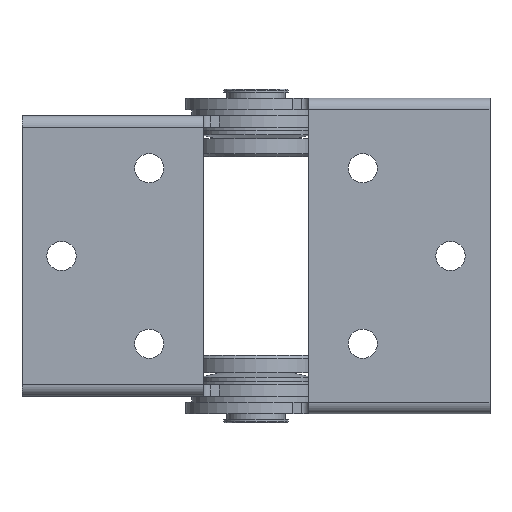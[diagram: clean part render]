
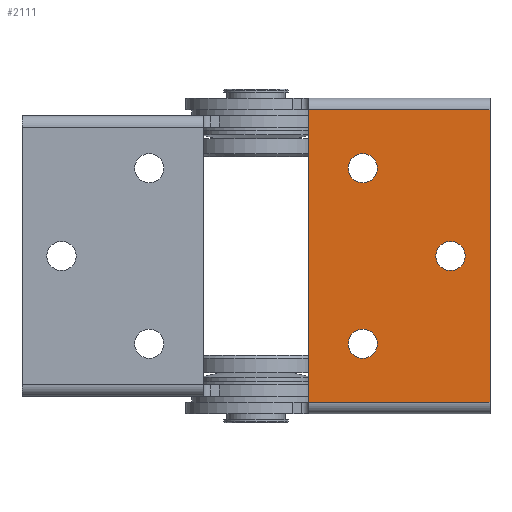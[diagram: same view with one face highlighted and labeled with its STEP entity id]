
A CAD part, front view. The second image highlights one B-rep face of the part: STEP entity #2111.
In plain terms, the highlighted planar face has unit normal (0, -1, 0).
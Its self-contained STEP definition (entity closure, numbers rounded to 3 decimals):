
#27 = DIRECTION ( 'NONE',  ( 0., 1., 0. ) ) ;
#148 = EDGE_LOOP ( 'NONE', ( #3689, #3714 ) ) ;
#227 = ORIENTED_EDGE ( 'NONE', *, *, #3072, .F. ) ;
#244 = CARTESIAN_POINT ( 'NONE',  ( 25.609, 0., -25. ) ) ;
#254 = FACE_BOUND ( 'NONE', #148, .T. ) ;
#274 = CARTESIAN_POINT ( 'NONE',  ( 56.609, 0., 25. ) ) ;
#282 = AXIS2_PLACEMENT_3D ( 'NONE', #1263, #2011, #1985 ) ;
#369 = EDGE_CURVE ( 'NONE', #3373, #3875, #4259, .T. ) ;
#442 = AXIS2_PLACEMENT_3D ( 'NONE', #1675, #3075, #3358 ) ;
#485 = CIRCLE ( 'NONE', #1847, 2.5 ) ;
#508 = DIRECTION ( 'NONE',  ( 0., 0., 1. ) ) ;
#523 = LINE ( 'NONE', #899, #4317 ) ;
#571 = CARTESIAN_POINT ( 'NONE',  ( 49.859, 0., 0. ) ) ;
#638 = FACE_BOUND ( 'NONE', #1841, .T. ) ;
#656 = VECTOR ( 'NONE', #1042, 1000. ) ;
#716 = ORIENTED_EDGE ( 'NONE', *, *, #3692, .T. ) ;
#755 = EDGE_CURVE ( 'NONE', #4239, #913, #3862, .T. ) ;
#899 = CARTESIAN_POINT ( 'NONE',  ( 25.609, 0., -25. ) ) ;
#913 = VERTEX_POINT ( 'NONE', #982 ) ;
#982 = CARTESIAN_POINT ( 'NONE',  ( 49.859, 0., -2.5 ) ) ;
#1042 = DIRECTION ( 'NONE',  ( 0., 0., -1. ) ) ;
#1138 = ORIENTED_EDGE ( 'NONE', *, *, #2246, .T. ) ;
#1214 = EDGE_CURVE ( 'NONE', #2987, #2875, #1498, .T. ) ;
#1218 = DIRECTION ( 'NONE',  ( 0., 0., 1. ) ) ;
#1219 = DIRECTION ( 'NONE',  ( 0., 1., 0. ) ) ;
#1236 = LINE ( 'NONE', #2648, #3732 ) ;
#1263 = CARTESIAN_POINT ( 'NONE',  ( 34.859, 0., -15. ) ) ;
#1354 = CARTESIAN_POINT ( 'NONE',  ( 34.859, 0., -12.5 ) ) ;
#1498 = CIRCLE ( 'NONE', #282, 2.5 ) ;
#1525 = ORIENTED_EDGE ( 'NONE', *, *, #3123, .T. ) ;
#1531 = DIRECTION ( 'NONE',  ( 0., 0., 1. ) ) ;
#1662 = ORIENTED_EDGE ( 'NONE', *, *, #2055, .T. ) ;
#1675 = CARTESIAN_POINT ( 'NONE',  ( 34.859, 0., -15. ) ) ;
#1841 = EDGE_LOOP ( 'NONE', ( #2072, #3035 ) ) ;
#1847 = AXIS2_PLACEMENT_3D ( 'NONE', #571, #3385, #2289 ) ;
#1850 = CARTESIAN_POINT ( 'NONE',  ( 34.859, 0., 17.5 ) ) ;
#1883 = CARTESIAN_POINT ( 'NONE',  ( 49.859, 0., 2.5 ) ) ;
#1903 = VERTEX_POINT ( 'NONE', #244 ) ;
#1922 = DIRECTION ( 'NONE',  ( 0., 1., 0. ) ) ;
#1943 = CARTESIAN_POINT ( 'NONE',  ( 25.609, 0., 27. ) ) ;
#1957 = DIRECTION ( 'NONE',  ( 1., 0., 0. ) ) ;
#1985 = DIRECTION ( 'NONE',  ( 0., 0., 1. ) ) ;
#2011 = DIRECTION ( 'NONE',  ( 0., 1., 0. ) ) ;
#2055 = EDGE_CURVE ( 'NONE', #913, #4239, #485, .T. ) ;
#2066 = AXIS2_PLACEMENT_3D ( 'NONE', #1943, #1922, #1218 ) ;
#2072 = ORIENTED_EDGE ( 'NONE', *, *, #4462, .T. ) ;
#2099 = AXIS2_PLACEMENT_3D ( 'NONE', #4346, #1219, #1531 ) ;
#2111 = ADVANCED_FACE ( 'NONE', ( #254, #3362, #638, #4391 ), #3653, .F. ) ;
#2246 = EDGE_CURVE ( 'NONE', #2853, #3548, #3844, .T. ) ;
#2281 = DIRECTION ( 'NONE',  ( 0., 0., -1. ) ) ;
#2287 = AXIS2_PLACEMENT_3D ( 'NONE', #3795, #27, #2464 ) ;
#2289 = DIRECTION ( 'NONE',  ( 0., 0., 1. ) ) ;
#2394 = CIRCLE ( 'NONE', #442, 2.5 ) ;
#2426 = LINE ( 'NONE', #3117, #656 ) ;
#2464 = DIRECTION ( 'NONE',  ( 0., 0., 1. ) ) ;
#2473 = AXIS2_PLACEMENT_3D ( 'NONE', #3615, #4025, #508 ) ;
#2648 = CARTESIAN_POINT ( 'NONE',  ( 56.609, 0., 27. ) ) ;
#2853 = VERTEX_POINT ( 'NONE', #274 ) ;
#2875 = VERTEX_POINT ( 'NONE', #1354 ) ;
#2894 = EDGE_CURVE ( 'NONE', #2875, #2987, #2394, .T. ) ;
#2901 = VERTEX_POINT ( 'NONE', #3460 ) ;
#2958 = ORIENTED_EDGE ( 'NONE', *, *, #755, .T. ) ;
#2987 = VERTEX_POINT ( 'NONE', #3180 ) ;
#3007 = EDGE_LOOP ( 'NONE', ( #2958, #1662 ) ) ;
#3035 = ORIENTED_EDGE ( 'NONE', *, *, #369, .T. ) ;
#3072 = EDGE_CURVE ( 'NONE', #2853, #2901, #1236, .T. ) ;
#3075 = DIRECTION ( 'NONE',  ( 0., 1., 0. ) ) ;
#3117 = CARTESIAN_POINT ( 'NONE',  ( 25.609, 0., 27. ) ) ;
#3123 = EDGE_CURVE ( 'NONE', #1903, #2901, #523, .T. ) ;
#3180 = CARTESIAN_POINT ( 'NONE',  ( 34.859, 0., -17.5 ) ) ;
#3358 = DIRECTION ( 'NONE',  ( 0., 0., 1. ) ) ;
#3362 = FACE_BOUND ( 'NONE', #3007, .T. ) ;
#3373 = VERTEX_POINT ( 'NONE', #3967 ) ;
#3385 = DIRECTION ( 'NONE',  ( 0., 1., 0. ) ) ;
#3460 = CARTESIAN_POINT ( 'NONE',  ( 56.609, 0., -25. ) ) ;
#3548 = VERTEX_POINT ( 'NONE', #4426 ) ;
#3597 = EDGE_LOOP ( 'NONE', ( #716, #1525, #227, #1138 ) ) ;
#3615 = CARTESIAN_POINT ( 'NONE',  ( 49.859, 0., 0. ) ) ;
#3653 = PLANE ( 'NONE',  #2066 ) ;
#3689 = ORIENTED_EDGE ( 'NONE', *, *, #2894, .T. ) ;
#3692 = EDGE_CURVE ( 'NONE', #3548, #1903, #2426, .T. ) ;
#3714 = ORIENTED_EDGE ( 'NONE', *, *, #1214, .T. ) ;
#3732 = VECTOR ( 'NONE', #2281, 1000. ) ;
#3795 = CARTESIAN_POINT ( 'NONE',  ( 34.859, 0., 15. ) ) ;
#3844 = LINE ( 'NONE', #4215, #4407 ) ;
#3849 = CIRCLE ( 'NONE', #2099, 2.5 ) ;
#3862 = CIRCLE ( 'NONE', #2473, 2.5 ) ;
#3875 = VERTEX_POINT ( 'NONE', #1850 ) ;
#3967 = CARTESIAN_POINT ( 'NONE',  ( 34.859, 0., 12.5 ) ) ;
#4025 = DIRECTION ( 'NONE',  ( 0., 1., 0. ) ) ;
#4215 = CARTESIAN_POINT ( 'NONE',  ( 25.609, 0., 25. ) ) ;
#4239 = VERTEX_POINT ( 'NONE', #1883 ) ;
#4259 = CIRCLE ( 'NONE', #2287, 2.5 ) ;
#4317 = VECTOR ( 'NONE', #1957, 1000. ) ;
#4346 = CARTESIAN_POINT ( 'NONE',  ( 34.859, 0., 15. ) ) ;
#4391 = FACE_OUTER_BOUND ( 'NONE', #3597, .T. ) ;
#4407 = VECTOR ( 'NONE', #4492, 1000. ) ;
#4426 = CARTESIAN_POINT ( 'NONE',  ( 25.609, 0., 25. ) ) ;
#4462 = EDGE_CURVE ( 'NONE', #3875, #3373, #3849, .T. ) ;
#4492 = DIRECTION ( 'NONE',  ( -1., 0., 0. ) ) ;
